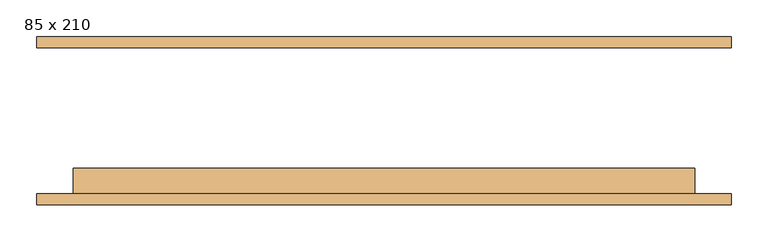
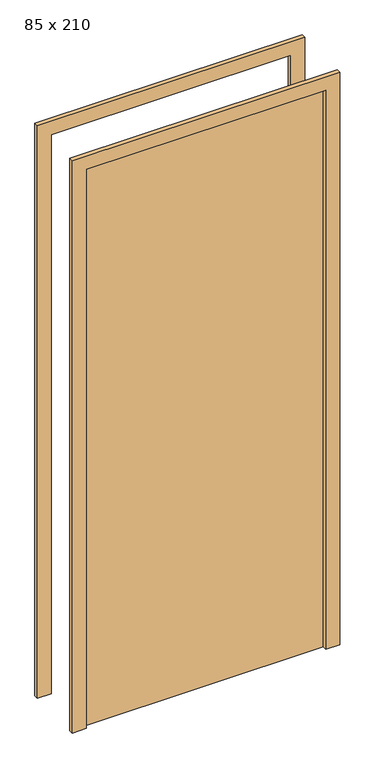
"""IFC4 building model written with IfcOpenShell, lengths in millimetres: door geometry, M_Descarga simples : 85 x 210."""

import ifcopenshell
import ifcopenshell.guid

model = None  # the IFC model being written
_history = None  # IfcOwnerHistory: only IFC2X3 demands one
_inside = {}  # id of a spatial element -> (the spatial element, [elements in it])
_under = {}  # id of a project, library or spatial element -> (it, [spatial elements below it])
_declared = {}  # id of a project -> (the project, [libraries it declares])
_typed = {}  # id of a type object -> (the type object, [elements of that type])
_made_of = {}  # id of a material, layer set ... -> (it, [elements and type objects made of it])


def new_model(schema):
    """Start an empty IFC model of exactly this schema.

    Asked for "IFC4X3", IfcOpenShell would pick the latest addendum, in which some entities
    have other attributes; the version numbers below select the first issue.
    IFC2X3 requires an IfcOwnerHistory on every rooted entity: one is made here for all.
    """
    global model, _history
    if schema == "IFC4X3":
        model = ifcopenshell.file(schema_version=(4, 3, 0, 0))
    else:
        model = ifcopenshell.file(schema=schema)
    _inside.clear()
    _under.clear()
    _declared.clear()
    _typed.clear()
    _made_of.clear()
    _history = None
    if model.schema == "IFC2X3":
        org = make("IfcOrganization", Name="unknown")
        user = make(
            "IfcPersonAndOrganization",
            ThePerson=make("IfcPerson", FamilyName="unknown"),
            TheOrganization=org,
        )
        app = make(
            "IfcApplication",
            ApplicationDeveloper=org,
            Version="unknown",
            ApplicationFullName="unknown",
            ApplicationIdentifier="unknown",
        )
        _history = make(
            "IfcOwnerHistory",
            OwningUser=user,
            OwningApplication=app,
            ChangeAction="ADDED",
            CreationDate=0,
        )
    return model


def make(cls, **values):
    """One entity of the class cls with the attributes given. An attribute that is None is left unset."""
    return model.create_entity(
        cls, **{name: value for name, value in values.items() if value is not None}
    )


def rooted(cls, **values):
    """An entity with a GlobalId (a new one), such as an element, a storey or a relation."""
    return make(cls, GlobalId=ifcopenshell.guid.new(), OwnerHistory=_history, **values)


def si_unit(unit_type, name, prefix=None):
    """IfcSIUnit, for example si_unit("LENGTHUNIT", "METRE", prefix="MILLI")."""
    return make("IfcSIUnit", UnitType=unit_type, Prefix=prefix, Name=name)


def assignment(units):
    """IfcUnitAssignment: the units of a project."""
    return None if units is None else make("IfcUnitAssignment", Units=units)


def point(xyz):
    """IfcCartesianPoint."""
    return None if xyz is None else make("IfcCartesianPoint", Coordinates=xyz)


def direction(xyz):
    """IfcDirection."""
    return None if xyz is None else make("IfcDirection", DirectionRatios=xyz)


def frame(location, z_axis=None, x_axis=None):
    """IfcAxis2Placement3D, a coordinate frame: its origin and axes. An axis left out is left unset."""
    return make(
        "IfcAxis2Placement3D",
        Location=point(location),
        Axis=direction(z_axis),
        RefDirection=direction(x_axis),
    )


def origin():
    """The frame at (0, 0, 0) with its axes left unset."""
    return frame((0.0, 0.0, 0.0))


def origin_with_axes():
    """The frame at (0, 0, 0) with the z axis (0, 0, 1) and the x axis (1, 0, 0) written out."""
    return frame((0.0, 0.0, 0.0), z_axis=(0.0, 0.0, 1.0), x_axis=(1.0, 0.0, 0.0))


def place(relative_to, where):
    """IfcLocalPlacement: puts the frame where relative to a parent placement (None: the world)."""
    return make(
        "IfcLocalPlacement", PlacementRelTo=relative_to, RelativePlacement=where
    )


def context(
    kind, dimensions, precision=None, world=None, true_north=None, identifier=None
):
    """IfcGeometricRepresentationContext, for example the 3D "Model" context."""
    return make(
        "IfcGeometricRepresentationContext",
        ContextIdentifier=identifier,
        ContextType=kind,
        CoordinateSpaceDimension=dimensions,
        Precision=precision,
        WorldCoordinateSystem=world,
        TrueNorth=true_north,
    )


def project(units=None, contexts=None):
    """IfcProject with its units and contexts."""
    return rooted(
        "IfcProject",
        Name="project",
        RepresentationContexts=contexts,
        UnitsInContext=assignment(units),
    )


def spatial(cls, under=None, at=None, **own):
    """A site, building, storey or space (cls), placed at a placement, below another one or the project."""
    s = rooted(cls, ObjectPlacement=at, **own)
    if under is not None:
        _under.setdefault(under.id(), (under, []))[1].append(s)
    return s


def polyline(points):
    """IfcPolyline through the points."""
    return make("IfcPolyline", Points=[point(p) for p in points])


def outline(outer, holes=None, kind="AREA"):
    """IfcArbitraryClosedProfileDef: a profile drawn as a closed curve; with holes, ...WithVoids."""
    if holes is None:
        return make("IfcArbitraryClosedProfileDef", ProfileType=kind, OuterCurve=outer)
    return make(
        "IfcArbitraryProfileDefWithVoids",
        ProfileType=kind,
        OuterCurve=outer,
        InnerCurves=holes,
    )


def extrude(swept, where, along, depth):
    """IfcExtrudedAreaSolid: the profile swept, set in the frame where, extruded along a direction by depth."""
    return make(
        "IfcExtrudedAreaSolid",
        SweptArea=swept,
        Position=where,
        ExtrudedDirection=direction(along),
        Depth=depth,
    )


def shape(context_of_items, identifier, shape_type, items):
    """IfcShapeRepresentation: the items that make up one representation, for example the "Body"."""
    return make(
        "IfcShapeRepresentation",
        ContextOfItems=context_of_items,
        RepresentationIdentifier=identifier,
        RepresentationType=shape_type,
        Items=items,
    )


def source(mapping_origin, context_of_items, identifier, shape_type, items):
    """IfcRepresentationMap: a shape defined once, which mapped items show again and again."""
    return make(
        "IfcRepresentationMap",
        MappingOrigin=mapping_origin,
        MappedRepresentation=shape(context_of_items, identifier, shape_type, items),
    )


def transform(
    local_origin,
    x_axis=None,
    y_axis=None,
    z_axis=None,
    scale=None,
    scale2=None,
    scale3=None,
    uniform=True,
):
    """IfcCartesianTransformationOperator3D, or its non-uniform kind. x_axis, y_axis, z_axis: its Axis1, 2, 3."""
    if uniform:
        return make(
            "IfcCartesianTransformationOperator3D",
            Axis1=direction(x_axis),
            Axis2=direction(y_axis),
            LocalOrigin=point(local_origin),
            Scale=scale,
            Axis3=direction(z_axis),
        )
    return make(
        "IfcCartesianTransformationOperator3DnonUniform",
        Axis1=direction(x_axis),
        Axis2=direction(y_axis),
        LocalOrigin=point(local_origin),
        Scale=scale,
        Axis3=direction(z_axis),
        Scale2=scale2,
        Scale3=scale3,
    )


def mapped(mapping_source, mapping_target):
    """IfcMappedItem: shows the shape of a source again, moved by a transform."""
    return make(
        "IfcMappedItem", MappingSource=mapping_source, MappingTarget=mapping_target
    )


def made_of(thing, what):
    """Note that an element or type object is made of a material, layer set ...; save() writes the relation."""
    if what is not None:
        _made_of.setdefault(what.id(), (what, []))[1].append(thing)
    return thing


def element(
    cls,
    number,
    at=None,
    inside=None,
    cuts=None,
    type_object=None,
    material=None,
    context=None,
    identifier="Body",
    shape_type=None,
    held_by="IfcProductDefinitionShape",
    body=None,
    shapes=None,
    **own,
):
    """One element of the class cls, such as IfcWall. Its Tag is "e" and its number.

    at: its placement. inside: the storey or other place that contains it. cuts: it is an
    opening in that element (IfcRelVoidsElement). A single representation is given by context,
    identifier, shape_type and body (its items); several are given by shapes. held_by: the class
    of the entity that holds the representations. save() writes the other relations.
    """
    e = rooted(cls, Tag="e%d" % number, ObjectPlacement=at, **own)
    if body is not None:
        shapes = [shape(context, identifier, shape_type, body)]
    if shapes is not None:
        e.Representation = make(held_by, Representations=shapes)
    if inside is not None:
        _inside.setdefault(inside.id(), (inside, []))[1].append(e)
    if cuts is not None:
        rooted(
            "IfcRelVoidsElement", RelatingBuildingElement=cuts, RelatedOpeningElement=e
        )
    if type_object is not None:
        _typed.setdefault(type_object.id(), (type_object, []))[1].append(e)
    return made_of(e, material)


def aggregate(whole, parts):
    """IfcRelAggregates: a whole, such as a stair, and the parts it consists of."""
    return rooted("IfcRelAggregates", RelatingObject=whole, RelatedObjects=parts)


def save(model, path):
    """Write the relations noted so far, then the file.

    IfcRelAggregates (storeys below a building ...), IfcRelContainedInSpatialStructure (elements
    in a storey), IfcRelDefinesByType, IfcRelAssociatesMaterial and IfcRelDeclares: one each for
    every whole, place, type object, material and project.
    """
    for whole, parts in _under.values():
        aggregate(whole, parts)
    for where, things in _inside.values():
        rooted(
            "IfcRelContainedInSpatialStructure",
            RelatedElements=things,
            RelatingStructure=where,
        )
    for kind, things in _typed.values():
        rooted("IfcRelDefinesByType", RelatedObjects=things, RelatingType=kind)
    for what, things in _made_of.values():
        rooted("IfcRelAssociatesMaterial", RelatedObjects=things, RelatingMaterial=what)
    for by, libraries in _declared.values():
        rooted("IfcRelDeclares", RelatingContext=by, RelatedDefinitions=libraries)
    model.write(path)


def door_85_x_210_ba3adec2(model_context):
    return source(origin(), model_context, "Body", "SweptSolid", [
        extrude(outline(polyline([(2150.0, -475.0), (0.0, -475.0), (0.0, -425.0), (2100.0, -425.0), (2100.0, 425.0), (0.0, 425.0), (0.0, 475.0), (2150.0, 475.0), (2150.0, -475.0)])), frame((0.0, -115.0, 0.0), z_axis=(0.0, 1.0, 0.0), x_axis=(0.0, 0.0, 1.0)), (0.0, 0.0, 1.0), 15.0),
        extrude(outline(polyline([(2150.0, 475.0), (2150.0, -475.0), (0.0, -475.0), (0.0, -425.0), (2100.0, -425.0), (2100.0, 425.0), (0.0, 425.0), (0.0, 475.0), (2150.0, 475.0)])), frame((0.0, 100.0, 0.0), z_axis=(0.0, 1.0, 0.0), x_axis=(0.0, 0.0, 1.0)), (0.0, 0.0, 1.0), 15.0),
        extrude(outline(polyline([(425.0, -65.0), (425.0, -100.0), (-425.0, -100.0), (-425.0, -65.0), (425.0, -65.0)])), origin_with_axes(), (0.0, 0.0, 1.0), 2100.0),
    ])


if __name__ == "__main__":
    model = new_model("IFC4")
    model_context = context("Model", 3, world=origin())
    ifc_project = project(units=[si_unit("LENGTHUNIT", "METRE", prefix="MILLI")], contexts=[model_context])
    site = spatial("IfcSite", under=ifc_project)
    building = spatial("IfcBuilding", under=site)
    placement = place(None, origin())
    door_85_x_210_shape = door_85_x_210_ba3adec2(model_context)
    element("IfcDoor", 1, ObjectType="M_Descarga simples : 85 x 210", at=placement, inside=building, context=model_context, shape_type="MappedRepresentation", body=[
        mapped(door_85_x_210_shape, transform((0.0, 0.0, 0.0), x_axis=(1.0, 0.0, 0.0), y_axis=(0.0, 1.0, 0.0), z_axis=(0.0, 0.0, 1.0))),
    ])
    save(model, "model.ifc")
